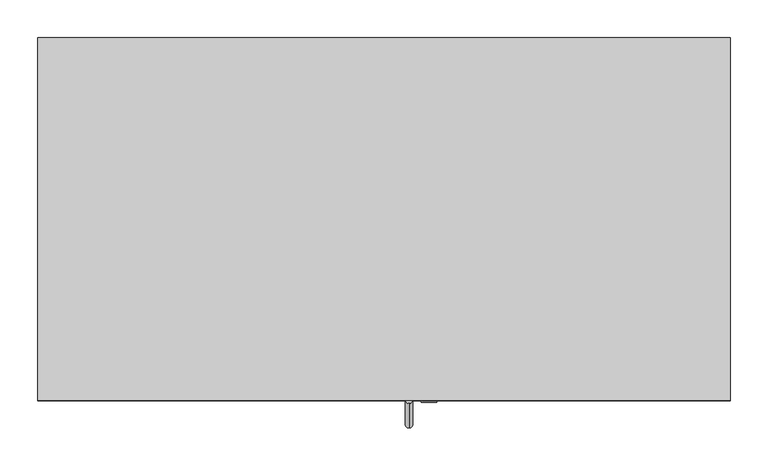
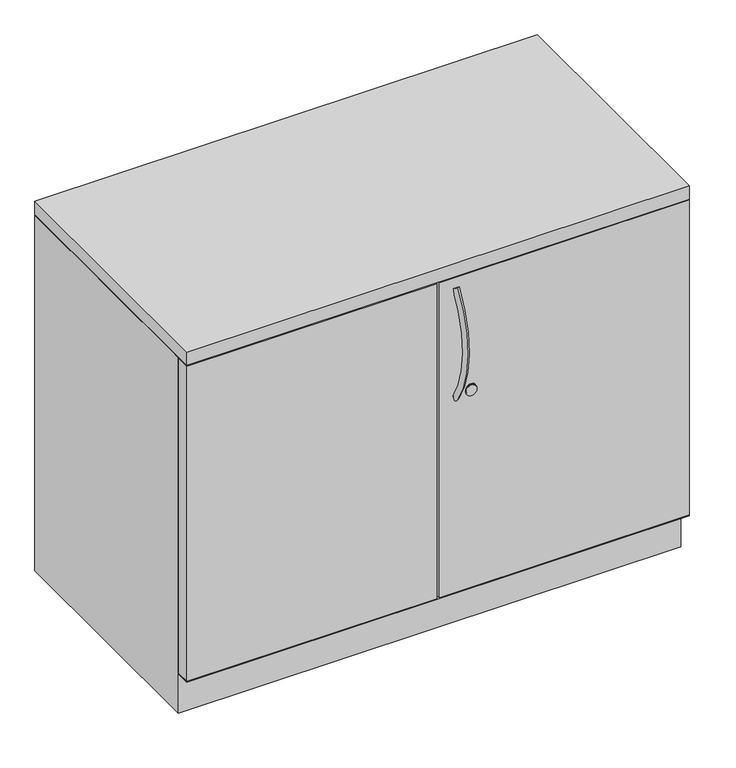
"""IFC4 building model written with IfcOpenShell, lengths in millimetres: furniture geometry, Steelcase - Universal Storage - Cabinet - Storage - 28H - Proud Steel : 18D x 36W."""

from ifc_helpers import new_model, si_unit, point, frame, frame_2d, origin, place, context, project, spatial, polyline, circle_curve, ellipse_curve, trimmed, segment, composite_curve, outline, extrude, faceted_brep, source, transform, mapped, element, save
from ifc_brep_helpers import plane_surface, revolved_surface, advanced_brep


def furniture_adec7d30(model_context):
    return source(origin(), model_context, "Body", "SolidModel", [
        extrude(outline(polyline([(914.4, 0.0), (914.4, -479.552), (0.0, -479.552), (0.0, 0.0), (914.4, 0.0)])), frame((0.0, 0.0, 685.7999516), z_axis=(0.0, 0.0, 1.0), x_axis=(1.0, 0.0, 0.0)), (0.0, 0.0, 1.0), 25.4),
        extrude(outline(polyline([(0.0, -479.552), (0.0, -454.1528418), (454.66, -454.1528418), (454.66, -479.552), (0.0, -479.552)])), frame((0.0, 0.0, 77.724), z_axis=(0.0, 0.0, 1.0), x_axis=(1.0, 0.0, 0.0)), (0.0, 0.0, 1.0), 606.552),
        extrude(outline(polyline([(914.4, -454.1528418), (914.4, -479.552), (459.74, -479.552), (459.74, -454.1528418), (914.4, -454.1528418)])), frame((0.0, 0.0, 77.724), z_axis=(0.0, 0.0, 1.0), x_axis=(1.0, 0.0, 0.0)), (0.0, 0.0, 1.0), 606.552),
        extrude(outline(composite_curve([segment(trimmed(circle_curve(frame_2d((458.724, 516.7418131)), 10.16), [point((458.724, 526.9018131))], [point((458.724, 506.5818131))], False, "CARTESIAN"), True, "CONTINUOUS"), segment(trimmed(circle_curve(frame_2d((458.724, 516.7418131)), 10.16), [point((458.724, 506.5818131))], [point((458.724, 526.9018131))], False, "CARTESIAN"), True, "CONTINUOUS")], self_intersect=False)), frame((0.0, -481.965031, 0.0), z_axis=(0.0, 1.0, 0.0), x_axis=(0.0, 0.0, 1.0)), (0.0, 0.0, 1.0), 2.413031),
        advanced_brep(
        [(490.2783765, -474.9744318, 660.7416018), (490.2783765, -483.5741633, 666.4120503), (490.2783765, -472.5471581, 453.0151915), (490.2783765, -481.0120418, 447.1453437)],
        [
            (0, 1, circle_curve(frame((490.2783765, -479.2742976, 663.5768261), z_axis=(0.0, 0.5504787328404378, 0.83484918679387), x_axis=(0.0, -0.83484918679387, 0.5504787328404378)), 5.1504701)),
            (1, 0, circle_curve(frame((490.2783765, -479.2742976, 663.5768261), z_axis=(0.0, 0.5504787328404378, 0.83484918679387), x_axis=(0.0, -0.83484918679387, 0.5504787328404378)), 5.1504701)),
            (2, 3, circle_curve(frame((490.2783765, -476.7796, 450.0802676), z_axis=(0.0, 0.5698361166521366, -0.8217583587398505), x_axis=(0.0, -0.8217583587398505, -0.5698361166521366)), 5.1504701)),
            (3, 2, circle_curve(frame((490.2783765, -476.7796, 450.0802676), z_axis=(0.0, 0.5698361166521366, -0.8217583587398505), x_axis=(0.0, -0.8217583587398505, -0.5698361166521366)), 5.1504701)),
            (3, 1, circle_curve(frame((490.2783765, -320.178461, 558.6729992), z_axis=(-1.0, 0.0, 0.0), x_axis=(0.0, -0.83484918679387, 0.5504787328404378)), 195.7188256)),
            (0, 2, circle_curve(frame((490.2783765, -320.178461, 558.6729992), z_axis=(1.0, 0.0, 0.0), x_axis=(0.0, -0.83484918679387, 0.5504787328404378)), 185.4178854)),
        ],
        [
            plane_surface(frame((490.2783765, -479.2742976, 663.5768261), z_axis=(0.0, 0.5504787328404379, 0.83484918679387), x_axis=(-1.0, 0.0, 0.0))),
            plane_surface(frame((490.2783765, -476.7796, 450.0802676), z_axis=(0.0, 0.5698361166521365, -0.8217583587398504), x_axis=(-1.0, 0.0, 0.0))),
            revolved_surface(trimmed(ellipse_curve(frame((490.2783765, -479.2742976, 663.5768261), z_axis=(0.0, 0.5504787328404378, 0.83484918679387), x_axis=(0.0, -0.83484918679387, 0.5504787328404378)), 5.1504701, 5.1504701), [point((490.2783765, -474.9744318, 660.7416018))], [point((490.2783765, -483.5741633, 666.4120503))], True, "CARTESIAN"), (490.2783765, -320.178461, 558.6729992), (1.0, 0.0, 0.0)),
            revolved_surface(trimmed(ellipse_curve(frame((490.2783765, -479.2742976, 663.5768261), z_axis=(0.0, 0.5504787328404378, 0.83484918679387), x_axis=(0.0, -0.83484918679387, 0.5504787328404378)), 5.1504701, 5.1504701), [point((490.2783765, -483.5741633, 666.4120503))], [point((490.2783765, -474.9744318, 660.7416018))], True, "CARTESIAN"), (490.2783765, -320.178461, 558.6729992), (1.0, 0.0, 0.0)),
        ],
        [
            (0, [[1, 2]]),
            (1, [[3, 4]]),
            (2, [[5, -1, 6, -4]]),
            (3, [[-6, -2, -5, -3]]),
        ],
    ),
        extrude(outline(composite_curve([segment(trimmed(circle_curve(frame_2d((460.3889832, 517.0109835)), 9.7167829), [point((460.3889832, 526.7277664))], [point((460.3889832, 507.2942006))], False, "CARTESIAN"), True, "CONTINUOUS"), segment(trimmed(circle_curve(frame_2d((460.3889832, 517.0109835)), 9.7167829), [point((460.3889832, 507.2942006))], [point((460.3889832, 526.7277664))], False, "CARTESIAN"), True, "CONTINUOUS")], self_intersect=False)), frame((0.0, -480.2215275, 0.0), z_axis=(0.0, 1.0, 0.0), x_axis=(0.0, 0.0, 1.0)), (0.0, 0.0, 1.0), 0.6695275),
        faceted_brep([(914.4, 0.0, 0.0), (914.4, -452.6288432, 0.0), (0.0, -452.6288432, 0.0), (0.0, 0.0, 0.0), (0.0, 0.0, 684.276), (914.4, 0.0, 684.276), (0.0, -452.6288432, 76.2), (0.0, -479.552, 76.2), (0.0, -479.552, 77.724), (0.0, -452.6288432, 77.724), (0.0, -452.6288432, 684.276), (914.4, -452.6288432, 76.2), (914.4, -452.6288432, 684.276), (914.4, -452.6288432, 77.724), (914.4, -479.4258418, 77.724), (914.4, -479.552, 76.2), (889.0000242, -25.4000008, 684.276), (889.0000242, -452.6288432, 684.276), (25.3999758, -452.6288432, 684.276), (25.3999758, -25.4000008, 684.276), (889.0000242, -25.4000008, 77.724), (889.0000242, -452.6288432, 77.724), (25.3999758, -452.6288432, 77.724), (25.3999758, -25.4000008, 77.724), (4.6981334, -454.1528418, 77.724), (889.0000242, -454.1528418, 77.724)], [[[0, 1, 2, 3]], [[0, 3, 4, 5]], [[4, 3, 2, 6, 7, 8, 9, 10]], [[2, 1, 11, 6]], [[1, 0, 5, 12, 13, 14, 15, 11]], [[16, 17, 12, 5, 4, 10, 18, 19]], [[17, 16, 20, 21]], [[12, 17, 21, 13]], [[18, 10, 9, 22]], [[19, 18, 22, 23]], [[16, 19, 23, 20]], [[8, 24, 25, 14, 13, 21, 20, 23, 22, 9]], [[24, 8, 7]], [[25, 24, 7, 15]], [[14, 25, 15]], [[15, 7, 6, 11]]]),
    ])


if __name__ == "__main__":
    model = new_model("IFC4")
    model_context = context("Model", 3, world=origin())
    ifc_project = project(units=[si_unit("LENGTHUNIT", "METRE", prefix="MILLI")], contexts=[model_context])
    site = spatial("IfcSite", under=ifc_project)
    building = spatial("IfcBuilding", under=site)
    placement = place(None, origin())
    furniture_shape = furniture_adec7d30(model_context)
    element("IfcFurniture", 1, ObjectType="Steelcase - Universal Storage - Cabinet - Storage - 28H - Proud Steel : 18D x 36W", at=placement, inside=building, context=model_context, shape_type="MappedRepresentation", body=[
        mapped(furniture_shape, transform((0.0, 0.0, 0.0), x_axis=(1.0, 0.0, 0.0), y_axis=(0.0, 1.0, 0.0), z_axis=(0.0, 0.0, 1.0))),
    ])
    save(model, "model.ifc")
